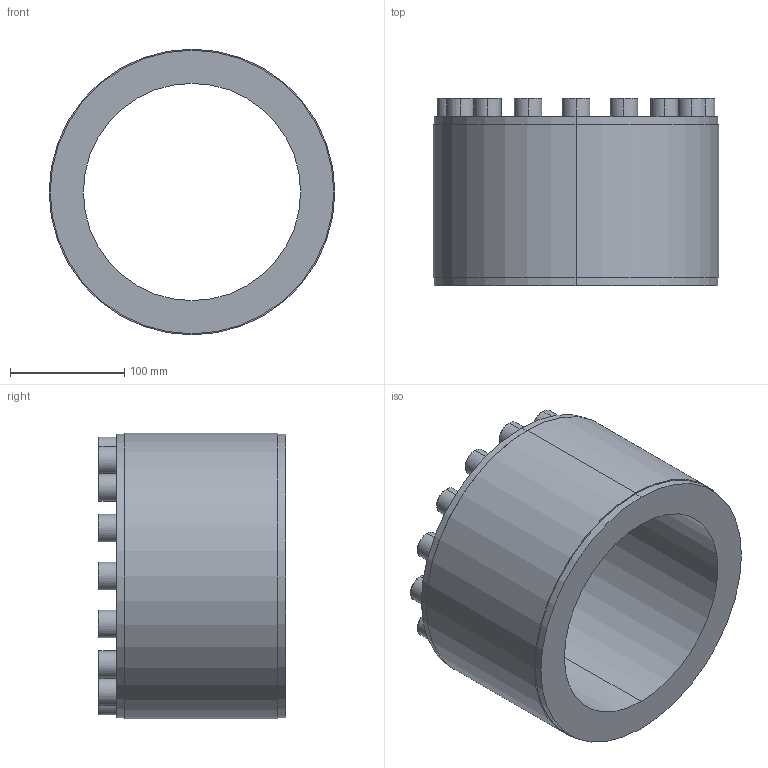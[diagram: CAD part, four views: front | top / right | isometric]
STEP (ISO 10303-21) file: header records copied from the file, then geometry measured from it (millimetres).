
FILE_DESCRIPTION (( 'STEP AP203' ), '1' );
FILE_NAME ('PL-D1 190-250.STEP', '2021-10-23T00:22:56', ( '' ), ( '' ), 'SwSTEP 2.0', 'SolidWorks 2018', '' );
FILE_SCHEMA (( 'CONFIG_CONTROL_DESIGN' ));
Length unit declared in the file: millimetre
Products named in the file (1): PL-D1 190-250
Bounding box: 250 x 164 x 250 mm (x, y, z)
Volume: 3151776.8 mm3; surface area: 271210.5 mm2
Topology: 1 solids, 1 shells, 204 faces, 472 edges, 304 vertices
Faces by surface type: plane 132, cylinder 40, torus 32
Entity records: 5845 total; most frequent: DIRECTION 1026, CARTESIAN_POINT 981, ORIENTED_EDGE 944, EDGE_CURVE 472, AXIS2_PLACEMENT_3D 349, LINE 328, VECTOR 328, VERTEX_POINT 304
